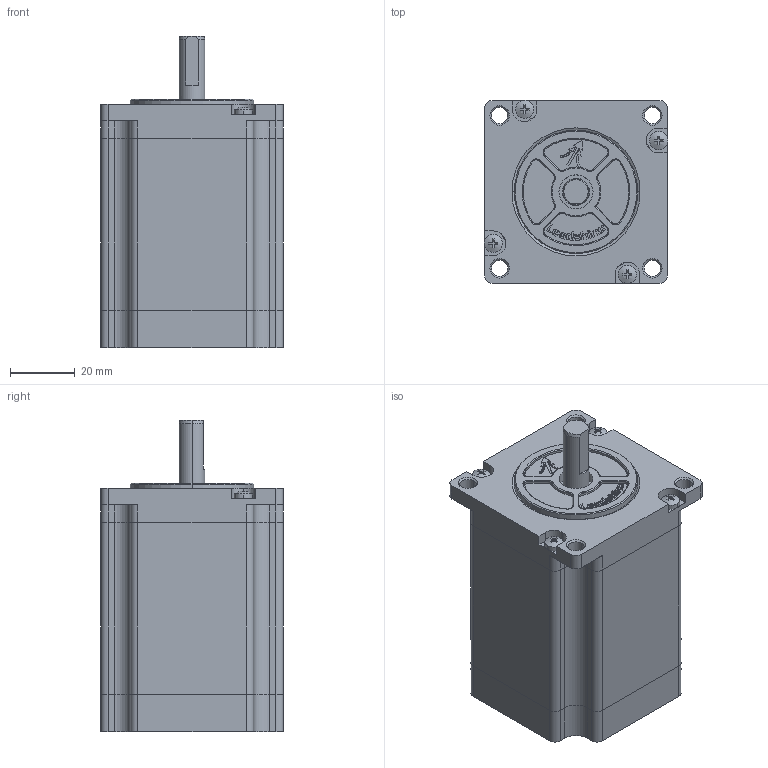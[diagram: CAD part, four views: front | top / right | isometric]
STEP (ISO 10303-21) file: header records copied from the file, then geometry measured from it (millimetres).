
FILE_DESCRIPTION (( 'STEP AP214' ), '1' );
FILE_NAME ('57CM23.STEP', '2018-02-06T09:03:08', ( 'Microsoft' ), ( 'China' ), 'SwSTEP 2.0', 'SolidWorks 2011', '' );
FILE_SCHEMA (( 'AUTOMOTIVE_DESIGN' ));
Length unit declared in the file: millimetre
Products named in the file (7): 1_2_05_130022_4; 1_1_04_EB572-359_4; 3_4; 2_4; 1_2_04_680006_4; 1_1_02_EB571-152_4; 57CM23
Assembly tree (14 placements, depth 2):
  57CM23
    1_2_05_130022_4  x8
    1_1_02_EB571-152_4
    2_4
    1_2_04_680006_4
    1_1_04_EB572-359_4  x2
    3_4
Bounding box: 56.54 x 56.54 x 96 mm (x, y, z)
Volume: 126667.8 mm3; surface area: 68694.2 mm2
Topology: 4 solids, 30 shells, 1783 faces, 4788 edges, 3155 vertices
Faces by surface type: plane 1125, cylinder 331, bspline 282, cone 45
Entity records: 43960 total; most frequent: CARTESIAN_POINT 13629, ORIENTED_EDGE 6624, DIRECTION 5519, EDGE_CURVE 3322, LINE 2473, VECTOR 2473, VERTEX_POINT 2197, AXIS2_PLACEMENT_3D 1523
